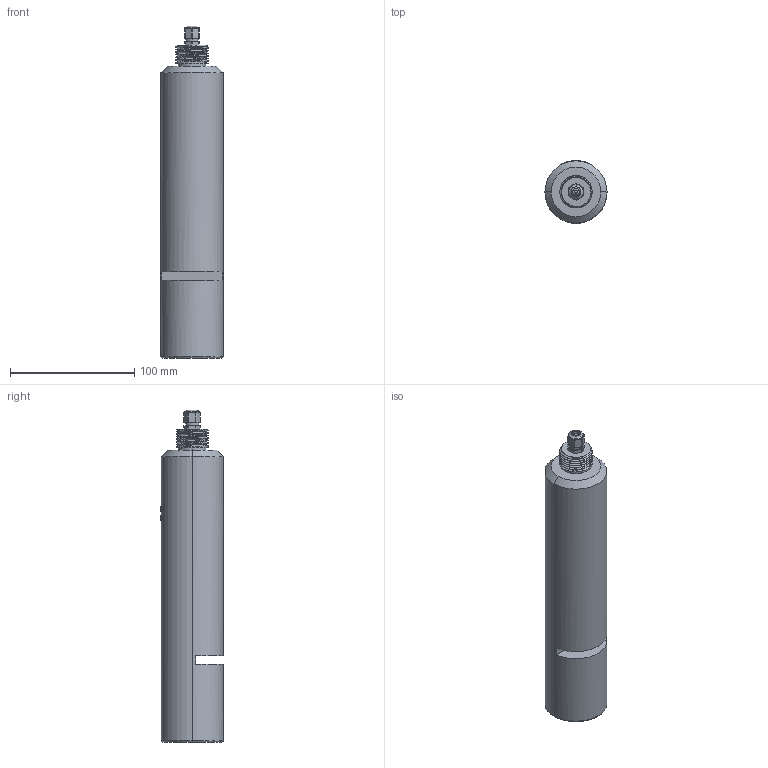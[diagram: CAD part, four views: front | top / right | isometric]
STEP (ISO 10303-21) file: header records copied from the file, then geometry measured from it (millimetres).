
FILE_DESCRIPTION((''),'2;1');
FILE_NAME('ASM0011_ASM','2026-01-26T10:28:30',('28740194'),(''),'CREO PARAMETRIC BY PTC INC, 2024063','CREO PARAMETRIC BY PTC INC, 2024063','');
FILE_SCHEMA(('CONFIG_CONTROL_DESIGN'));
Length unit declared in the file: millimetre
Products named in the file (3): KWS-150; 0; ASM0011_ASM
Assembly tree (2 placements, depth 2):
  ASM0011_ASM
    KWS-150
    0
Bounding box: 50 x 50.24 x 267.5 mm (x, y, z)
Volume: 1848.2 mm3; surface area: 46061 mm2
Topology: 1 solids, 6 shells, 470 faces, 1285 edges, 850 vertices
Faces by surface type: bspline 336, cylinder 70, plane 34, cone 18, torus 12
Entity records: 21343 total; most frequent: CARTESIAN_POINT 11809, ORIENTED_EDGE 2542, EDGE_CURVE 1285, DIRECTION 964, B_SPLINE_CURVE_WITH_KNOTS 854, VERTEX_POINT 850, EDGE_LOOP 502, FACE_OUTER_BOUND 470
